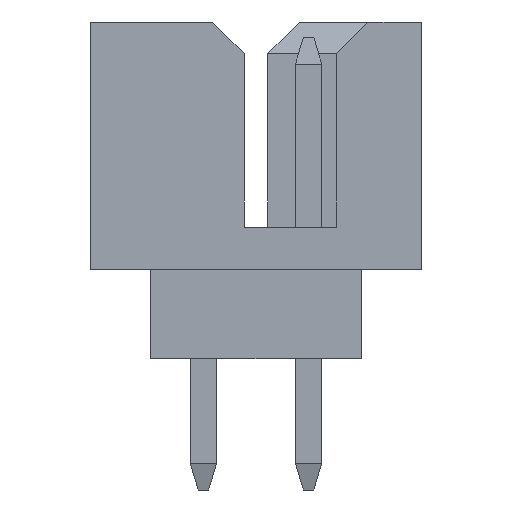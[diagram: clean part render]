
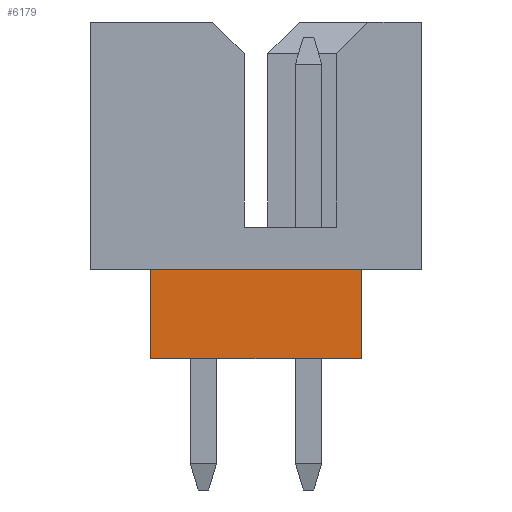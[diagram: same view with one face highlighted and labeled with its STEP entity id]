
A CAD part, left-side view. The second image highlights one B-rep face of the part: STEP entity #6179.
In plain terms, the highlighted planar face has unit normal (-1, 0, 0).
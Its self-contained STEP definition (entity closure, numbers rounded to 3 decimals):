
#100 = PLANE('',#101);
#101 = AXIS2_PLACEMENT_3D('',#102,#103,#104);
#102 = CARTESIAN_POINT('',(8.325,3.15,1.736));
#103 = DIRECTION('',(0.,0.,-1.));
#104 = DIRECTION('',(0.,1.,0.));
#756 = VERTEX_POINT('',#757);
#757 = CARTESIAN_POINT('',(-7.5,2.,1.736));
#771 = PLANE('',#772);
#772 = AXIS2_PLACEMENT_3D('',#773,#774,#775);
#773 = CARTESIAN_POINT('',(7.5,2.,0.036));
#774 = DIRECTION('',(0.,-1.,0.));
#775 = DIRECTION('',(1.,0.,0.));
#783 = EDGE_CURVE('',#756,#784,#786,.T.);
#784 = VERTEX_POINT('',#785);
#785 = CARTESIAN_POINT('',(-7.5,-2.,1.736));
#786 = SURFACE_CURVE('',#787,(#791,#798),.PCURVE_S1.);
#787 = LINE('',#788,#789);
#788 = CARTESIAN_POINT('',(-7.5,3.15,1.736));
#789 = VECTOR('',#790,1.);
#790 = DIRECTION('',(0.,-1.,0.));
#791 = PCURVE('',#100,#792);
#792 = DEFINITIONAL_REPRESENTATION('',(#793),#797);
#793 = LINE('',#794,#795);
#794 = CARTESIAN_POINT('',(0.,-15.825));
#795 = VECTOR('',#796,1.);
#796 = DIRECTION('',(-1.,0.));
#797 = ( GEOMETRIC_REPRESENTATION_CONTEXT(2) 
PARAMETRIC_REPRESENTATION_CONTEXT() REPRESENTATION_CONTEXT('2D SPACE',''
  ) );
#798 = PCURVE('',#799,#804);
#799 = PLANE('',#800);
#800 = AXIS2_PLACEMENT_3D('',#801,#802,#803);
#801 = CARTESIAN_POINT('',(-7.5,2.,0.036));
#802 = DIRECTION('',(1.,0.,0.));
#803 = DIRECTION('',(0.,1.,0.));
#804 = DEFINITIONAL_REPRESENTATION('',(#805),#809);
#805 = LINE('',#806,#807);
#806 = CARTESIAN_POINT('',(1.15,1.7));
#807 = VECTOR('',#808,1.);
#808 = DIRECTION('',(-1.,0.));
#809 = ( GEOMETRIC_REPRESENTATION_CONTEXT(2) 
PARAMETRIC_REPRESENTATION_CONTEXT() REPRESENTATION_CONTEXT('2D SPACE',''
  ) );
#827 = PLANE('',#828);
#828 = AXIS2_PLACEMENT_3D('',#829,#830,#831);
#829 = CARTESIAN_POINT('',(-7.5,-2.,0.036));
#830 = DIRECTION('',(0.,1.,0.));
#831 = DIRECTION('',(-1.,0.,0.));
#6179 = ADVANCED_FACE('',(#6180),#799,.F.);
#6180 = FACE_BOUND('',#6181,.T.);
#6181 = EDGE_LOOP('',(#6182,#6183,#6206,#6234));
#6182 = ORIENTED_EDGE('',*,*,#783,.F.);
#6183 = ORIENTED_EDGE('',*,*,#6184,.F.);
#6184 = EDGE_CURVE('',#6185,#756,#6187,.T.);
#6185 = VERTEX_POINT('',#6186);
#6186 = CARTESIAN_POINT('',(-7.5,2.,0.036));
#6187 = SURFACE_CURVE('',#6188,(#6192,#6199),.PCURVE_S1.);
#6188 = LINE('',#6189,#6190);
#6189 = CARTESIAN_POINT('',(-7.5,2.,0.036));
#6190 = VECTOR('',#6191,1.);
#6191 = DIRECTION('',(0.,0.,1.));
#6192 = PCURVE('',#799,#6193);
#6193 = DEFINITIONAL_REPRESENTATION('',(#6194),#6198);
#6194 = LINE('',#6195,#6196);
#6195 = CARTESIAN_POINT('',(0.,0.));
#6196 = VECTOR('',#6197,1.);
#6197 = DIRECTION('',(0.,1.));
#6198 = ( GEOMETRIC_REPRESENTATION_CONTEXT(2) 
PARAMETRIC_REPRESENTATION_CONTEXT() REPRESENTATION_CONTEXT('2D SPACE',''
  ) );
#6199 = PCURVE('',#771,#6200);
#6200 = DEFINITIONAL_REPRESENTATION('',(#6201),#6205);
#6201 = LINE('',#6202,#6203);
#6202 = CARTESIAN_POINT('',(-15.,0.));
#6203 = VECTOR('',#6204,1.);
#6204 = DIRECTION('',(0.,1.));
#6205 = ( GEOMETRIC_REPRESENTATION_CONTEXT(2) 
PARAMETRIC_REPRESENTATION_CONTEXT() REPRESENTATION_CONTEXT('2D SPACE',''
  ) );
#6206 = ORIENTED_EDGE('',*,*,#6207,.F.);
#6207 = EDGE_CURVE('',#6208,#6185,#6210,.T.);
#6208 = VERTEX_POINT('',#6209);
#6209 = CARTESIAN_POINT('',(-7.5,-2.,0.036));
#6210 = SURFACE_CURVE('',#6211,(#6215,#6222),.PCURVE_S1.);
#6211 = LINE('',#6212,#6213);
#6212 = CARTESIAN_POINT('',(-7.5,2.,0.036));
#6213 = VECTOR('',#6214,1.);
#6214 = DIRECTION('',(0.,1.,0.));
#6215 = PCURVE('',#799,#6216);
#6216 = DEFINITIONAL_REPRESENTATION('',(#6217),#6221);
#6217 = LINE('',#6218,#6219);
#6218 = CARTESIAN_POINT('',(0.,0.));
#6219 = VECTOR('',#6220,1.);
#6220 = DIRECTION('',(1.,0.));
#6221 = ( GEOMETRIC_REPRESENTATION_CONTEXT(2) 
PARAMETRIC_REPRESENTATION_CONTEXT() REPRESENTATION_CONTEXT('2D SPACE',''
  ) );
#6222 = PCURVE('',#6223,#6228);
#6223 = PLANE('',#6224);
#6224 = AXIS2_PLACEMENT_3D('',#6225,#6226,#6227);
#6225 = CARTESIAN_POINT('',(-8.325,3.15,0.036));
#6226 = DIRECTION('',(0.,0.,-1.));
#6227 = DIRECTION('',(0.,1.,0.));
#6228 = DEFINITIONAL_REPRESENTATION('',(#6229),#6233);
#6229 = LINE('',#6230,#6231);
#6230 = CARTESIAN_POINT('',(-1.15,0.825));
#6231 = VECTOR('',#6232,1.);
#6232 = DIRECTION('',(1.,0.));
#6233 = ( GEOMETRIC_REPRESENTATION_CONTEXT(2) 
PARAMETRIC_REPRESENTATION_CONTEXT() REPRESENTATION_CONTEXT('2D SPACE',''
  ) );
#6234 = ORIENTED_EDGE('',*,*,#6235,.F.);
#6235 = EDGE_CURVE('',#784,#6208,#6236,.T.);
#6236 = SURFACE_CURVE('',#6237,(#6241,#6248),.PCURVE_S1.);
#6237 = LINE('',#6238,#6239);
#6238 = CARTESIAN_POINT('',(-7.5,-2.,0.036));
#6239 = VECTOR('',#6240,1.);
#6240 = DIRECTION('',(-0.,0.,-1.));
#6241 = PCURVE('',#799,#6242);
#6242 = DEFINITIONAL_REPRESENTATION('',(#6243),#6247);
#6243 = LINE('',#6244,#6245);
#6244 = CARTESIAN_POINT('',(-4.,0.));
#6245 = VECTOR('',#6246,1.);
#6246 = DIRECTION('',(0.,-1.));
#6247 = ( GEOMETRIC_REPRESENTATION_CONTEXT(2) 
PARAMETRIC_REPRESENTATION_CONTEXT() REPRESENTATION_CONTEXT('2D SPACE',''
  ) );
#6248 = PCURVE('',#827,#6249);
#6249 = DEFINITIONAL_REPRESENTATION('',(#6250),#6254);
#6250 = LINE('',#6251,#6252);
#6251 = CARTESIAN_POINT('',(0.,0.));
#6252 = VECTOR('',#6253,1.);
#6253 = DIRECTION('',(0.,-1.));
#6254 = ( GEOMETRIC_REPRESENTATION_CONTEXT(2) 
PARAMETRIC_REPRESENTATION_CONTEXT() REPRESENTATION_CONTEXT('2D SPACE',''
  ) );
